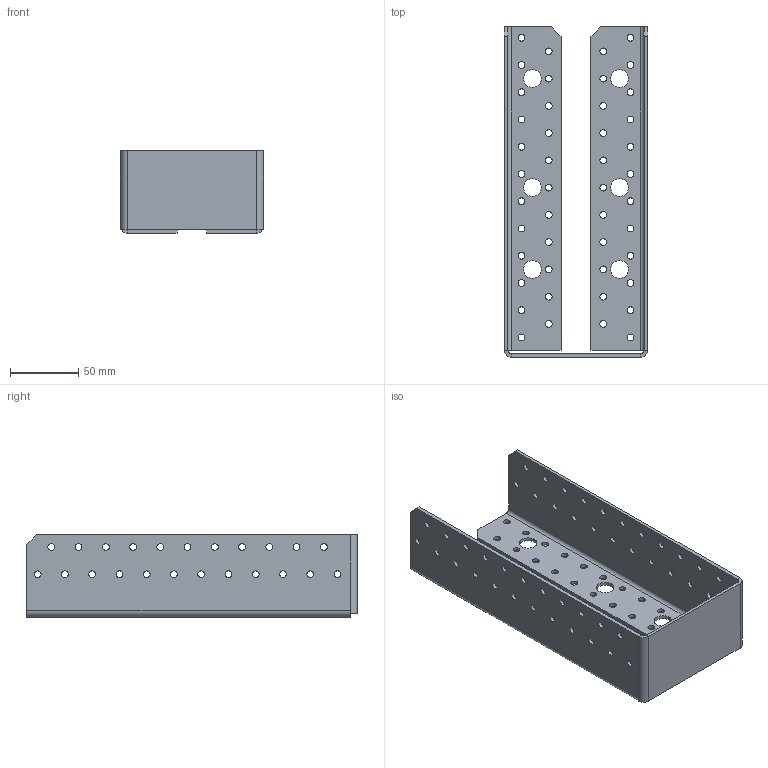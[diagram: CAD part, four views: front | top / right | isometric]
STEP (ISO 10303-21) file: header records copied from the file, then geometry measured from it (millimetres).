
FILE_DESCRIPTION (( 'STEP AP203' ), '1' );
FILE_NAME ('40501IKO.STEP', '2021-04-16T07:07:18', ( '' ), ( '' ), 'SwSTEP 2.0', 'SolidWorks 2013', '' );
FILE_SCHEMA (( 'CONFIG_CONTROL_DESIGN' ));
Length unit declared in the file: millimetre
Products named in the file (1): 40501IKO
Bounding box: 105 x 242.5 x 60.5 mm (x, y, z)
Volume: 124976.2 mm3; surface area: 107765.4 mm2
Topology: 1 solids, 1 shells, 240 faces, 684 edges, 446 vertices
Faces by surface type: cylinder 204, plane 36
Entity records: 8487 total; most frequent: DIRECTION 1576, CARTESIAN_POINT 1371, ORIENTED_EDGE 1368, EDGE_CURVE 684, AXIS2_PLACEMENT_3D 651, VERTEX_POINT 446, EDGE_LOOP 436, CIRCLE 410
